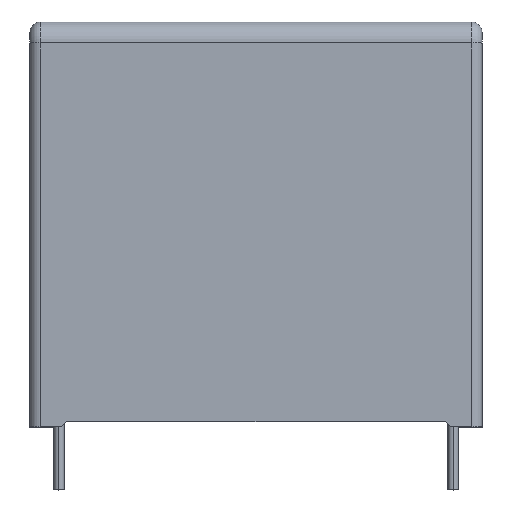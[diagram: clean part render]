
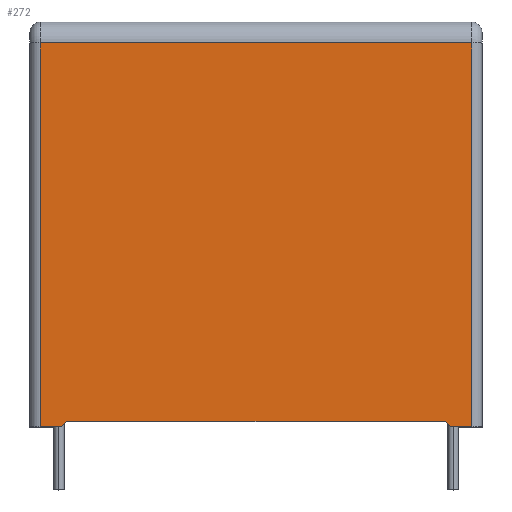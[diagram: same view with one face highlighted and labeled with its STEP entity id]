
A CAD part, top view. The second image highlights one B-rep face of the part: STEP entity #272.
In plain terms, the highlighted planar face has unit normal (0, 0, 1).
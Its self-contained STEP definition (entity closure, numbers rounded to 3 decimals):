
#110 = DIRECTION ( 'NONE',  ( -1., 0., 0. ) ) ;
#187 = FACE_OUTER_BOUND ( 'NONE', #1875, .T. ) ;
#272 = ADVANCED_FACE ( 'NONE', ( #187 ), #454, .F. ) ;
#302 = VECTOR ( 'NONE', #2876, 1000. ) ;
#338 = EDGE_CURVE ( 'NONE', #2191, #2633, #3381, .T. ) ;
#377 = CARTESIAN_POINT ( 'NONE',  ( -18.5, 0., 10.75 ) ) ;
#417 = DIRECTION ( 'NONE',  ( 0., 0., -1. ) ) ;
#454 = PLANE ( 'NONE',  #1009 ) ;
#588 = LINE ( 'NONE', #1507, #1852 ) ;
#612 = CARTESIAN_POINT ( 'NONE',  ( 18., 0.5, 10.75 ) ) ;
#666 = EDGE_CURVE ( 'NONE', #2191, #2295, #768, .T. ) ;
#768 = LINE ( 'NONE', #2893, #302 ) ;
#805 = CARTESIAN_POINT ( 'NONE',  ( -21.5, 38.5, 10.75 ) ) ;
#817 = CARTESIAN_POINT ( 'NONE',  ( 18., 0.5, 10.75 ) ) ;
#894 = VECTOR ( 'NONE', #1981, 1000. ) ;
#955 = VECTOR ( 'NONE', #2640, 1000. ) ;
#963 = LINE ( 'NONE', #2549, #1052 ) ;
#1007 = LINE ( 'NONE', #2131, #894 ) ;
#1009 = AXIS2_PLACEMENT_3D ( 'NONE', #805, #417, #110 ) ;
#1033 = EDGE_CURVE ( 'NONE', #2295, #2353, #1193, .T. ) ;
#1040 = EDGE_CURVE ( 'NONE', #3254, #3258, #1007, .T. ) ;
#1052 = VECTOR ( 'NONE', #3749, 1000. ) ;
#1060 = DIRECTION ( 'NONE',  ( -1., 0., 0. ) ) ;
#1193 = LINE ( 'NONE', #2283, #955 ) ;
#1387 = VECTOR ( 'NONE', #3910, 1000. ) ;
#1507 = CARTESIAN_POINT ( 'NONE',  ( -18.5, 0., 10.75 ) ) ;
#1519 = CARTESIAN_POINT ( 'NONE',  ( -20.5, 0., 10.75 ) ) ;
#1584 = LINE ( 'NONE', #2781, #1387 ) ;
#1680 = EDGE_CURVE ( 'NONE', #2353, #3188, #1584, .T. ) ;
#1852 = VECTOR ( 'NONE', #1871, 1000. ) ;
#1871 = DIRECTION ( 'NONE',  ( -0.707, -0.707, 0. ) ) ;
#1875 = EDGE_LOOP ( 'NONE', ( #3846, #3864, #3979, #3990, #4037, #4048, #4094, #4109 ) ) ;
#1981 = DIRECTION ( 'NONE',  ( 1., 0., 0. ) ) ;
#2055 = EDGE_CURVE ( 'NONE', #2358, #3258, #588, .T. ) ;
#2131 = CARTESIAN_POINT ( 'NONE',  ( -21.5, 0., 10.75 ) ) ;
#2191 = VERTEX_POINT ( 'NONE', #2277 ) ;
#2277 = CARTESIAN_POINT ( 'NONE',  ( 18.5, 0., 10.75 ) ) ;
#2283 = CARTESIAN_POINT ( 'NONE',  ( 20.5, 38.5, 10.75 ) ) ;
#2295 = VERTEX_POINT ( 'NONE', #2629 ) ;
#2353 = VERTEX_POINT ( 'NONE', #3039 ) ;
#2358 = VERTEX_POINT ( 'NONE', #3321 ) ;
#2549 = CARTESIAN_POINT ( 'NONE',  ( -20.5, 38.5, 10.75 ) ) ;
#2629 = CARTESIAN_POINT ( 'NONE',  ( 20.5, 0., 10.75 ) ) ;
#2633 = VERTEX_POINT ( 'NONE', #612 ) ;
#2640 = DIRECTION ( 'NONE',  ( 0., 1., 0. ) ) ;
#2738 = EDGE_CURVE ( 'NONE', #2633, #2358, #3857, .T. ) ;
#2781 = CARTESIAN_POINT ( 'NONE',  ( -21.5, 36.5, 10.75 ) ) ;
#2876 = DIRECTION ( 'NONE',  ( 1., 0., 0. ) ) ;
#2893 = CARTESIAN_POINT ( 'NONE',  ( -21.5, 0., 10.75 ) ) ;
#3039 = CARTESIAN_POINT ( 'NONE',  ( 20.5, 36.5, 10.75 ) ) ;
#3188 = VERTEX_POINT ( 'NONE', #4281 ) ;
#3254 = VERTEX_POINT ( 'NONE', #1519 ) ;
#3258 = VERTEX_POINT ( 'NONE', #377 ) ;
#3321 = CARTESIAN_POINT ( 'NONE',  ( -18., 0.5, 10.75 ) ) ;
#3365 = VECTOR ( 'NONE', #4084, 1000. ) ;
#3381 = LINE ( 'NONE', #817, #3365 ) ;
#3608 = VECTOR ( 'NONE', #1060, 1000. ) ;
#3749 = DIRECTION ( 'NONE',  ( 0., -1., 0. ) ) ;
#3846 = ORIENTED_EDGE ( 'NONE', *, *, #2738, .F. ) ;
#3857 = LINE ( 'NONE', #3941, #3608 ) ;
#3864 = ORIENTED_EDGE ( 'NONE', *, *, #338, .F. ) ;
#3910 = DIRECTION ( 'NONE',  ( -1., 0., 0. ) ) ;
#3941 = CARTESIAN_POINT ( 'NONE',  ( -18., 0.5, 10.75 ) ) ;
#3979 = ORIENTED_EDGE ( 'NONE', *, *, #666, .T. ) ;
#3990 = ORIENTED_EDGE ( 'NONE', *, *, #1033, .T. ) ;
#4037 = ORIENTED_EDGE ( 'NONE', *, *, #1680, .T. ) ;
#4048 = ORIENTED_EDGE ( 'NONE', *, *, #4236, .T. ) ;
#4084 = DIRECTION ( 'NONE',  ( -0.707, 0.707, 0. ) ) ;
#4094 = ORIENTED_EDGE ( 'NONE', *, *, #1040, .T. ) ;
#4109 = ORIENTED_EDGE ( 'NONE', *, *, #2055, .F. ) ;
#4236 = EDGE_CURVE ( 'NONE', #3188, #3254, #963, .T. ) ;
#4281 = CARTESIAN_POINT ( 'NONE',  ( -20.5, 36.5, 10.75 ) ) ;
